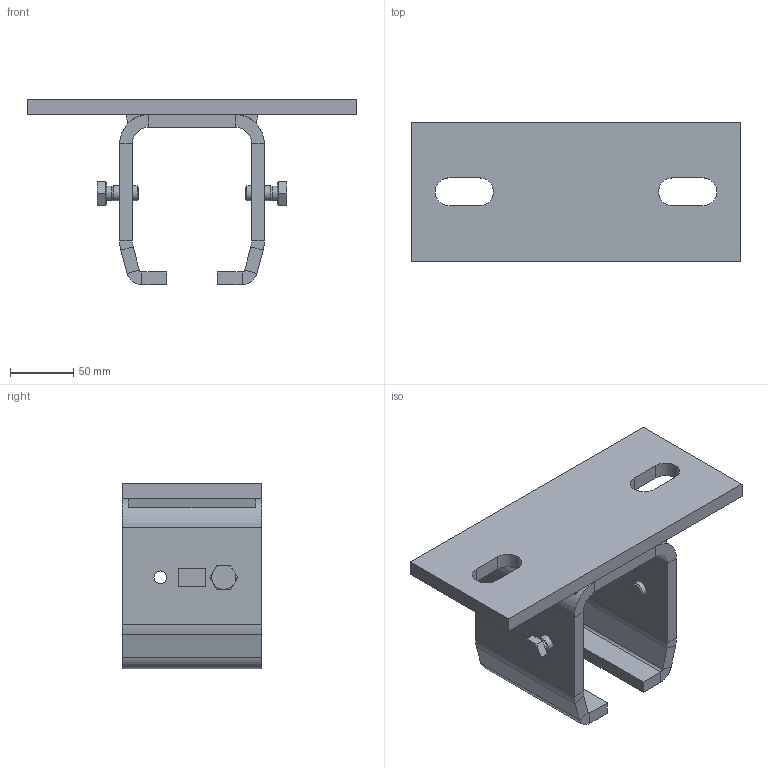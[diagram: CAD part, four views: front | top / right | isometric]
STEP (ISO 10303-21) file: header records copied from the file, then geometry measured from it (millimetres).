
FILE_DESCRIPTION(/* description */ ('Deckenbefestigung Nr.5'),/* implementation_level */ '2;1');
FILE_NAME(/* name */ 'Q:\sge-ma\Produktmanagement-STB\STB\Workspace\stp\010335790.stp',/* time_stamp */ '2015-07-09T13:58:14+02:00',/* author */ ('avschreier'),/* organization */ (''),/* preprocessor_version */ 'ST-DEVELOPER v15.6',/* originating_system */ 'Autodesk Inventor 2015',/* authorisation */ '');
FILE_SCHEMA (('CONFIG_CONTROL_DESIGN'));
Length unit declared in the file: millimetre
Products named in the file (5): 010335790_Schweißnähte; 337000126; 337000220; DIN_EN_ISO_4017-M12x25_en; 010335790
Bounding box: 260 x 110 x 146 mm (x, y, z)
Volume: 758479.5 mm3; surface area: 173756.6 mm2
Topology: 6 solids, 6 shells, 131 faces, 278 edges, 164 vertices
Faces by surface type: plane 85, cylinder 30, cone 16
Full cylindrical faces by diameter (mm): 10 x4, 10.106 x2, 11.053 x2, 12 x2, 17.2 x2
Entity records: 2979 total; most frequent: DIRECTION 512, CARTESIAN_POINT 504, ORIENTED_EDGE 446, EDGE_CURVE 223, AXIS2_PLACEMENT_3D 181, LINE 150, VECTOR 150, EDGE_LOOP 140
